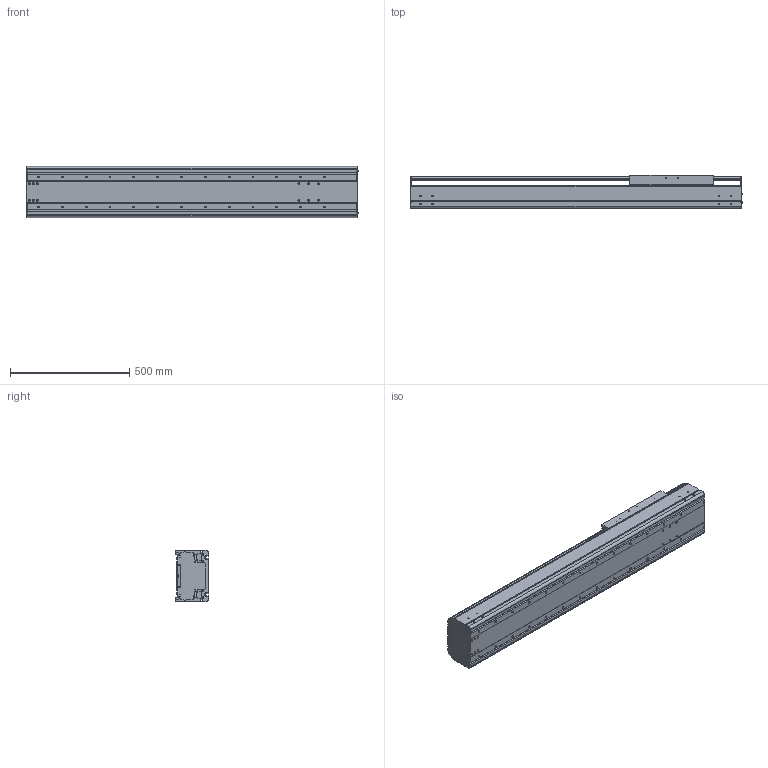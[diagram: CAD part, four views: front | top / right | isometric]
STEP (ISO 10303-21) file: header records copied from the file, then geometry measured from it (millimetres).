
FILE_DESCRIPTION((''),'2;1');
FILE_NAME('BE60J-ST-L_N-85_IGS_PRT','2017-06-18T',(' '),(''),'PRO/ENGINEER BY PARAMETRIC TECHNOLOGY CORPORATION, 2015030','PRO/ENGINEER BY PARAMETRIC TECHNOLOGY CORPORATION, 2015030','');
FILE_SCHEMA(('CONFIG_CONTROL_DESIGN'));
Length unit declared in the file: millimetre
Products named in the file (1): BE60J-ST-L_N-85_IGS_PRT
Bounding box: 1392.4 x 140 x 214 mm (x, y, z)
Volume: 11190467.1 mm3; surface area: 3030280.1 mm2
Topology: 2 solids, 116 shells, 1455 faces, 4072 edges, 2708 vertices
Faces by surface type: cylinder 748, plane 599, cone 60, sphere 24, torus 24
Entity records: 48810 total; most frequent: CARTESIAN_POINT 10843, DIRECTION 7946, ORIENTED_EDGE 7584, EDGE_CURVE 4016, AXIS2_PLACEMENT_3D 2956, VERTEX_POINT 2708, VECTOR 2034, LINE 2034
